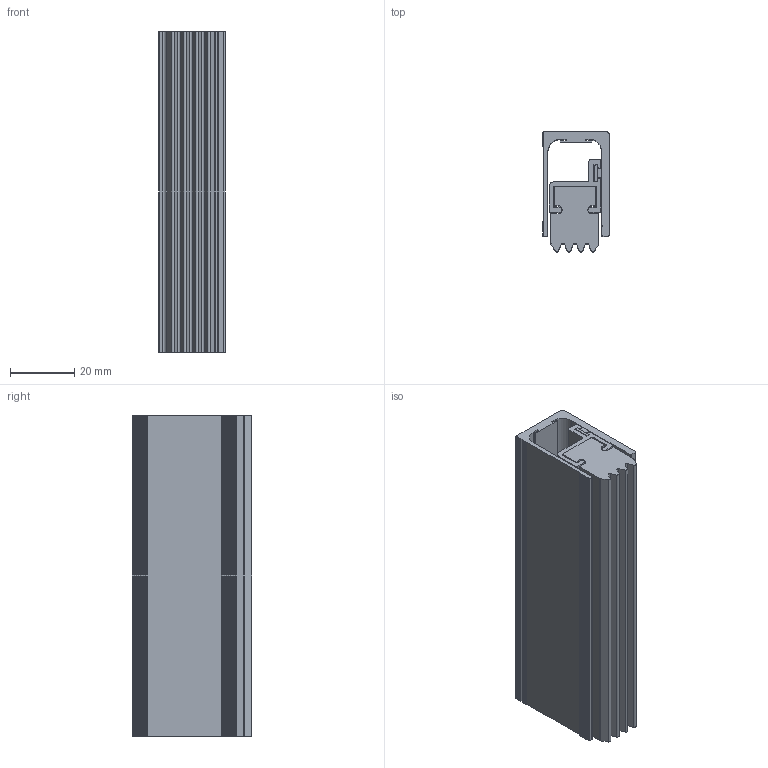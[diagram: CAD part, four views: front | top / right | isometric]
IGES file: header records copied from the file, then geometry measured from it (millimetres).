
Global section: file name: No Iges File Name specified; native system: Autodesk Inventor 2012; preprocessor: AutoDesk Inventor Iges Exporter R2012; author: anna.b; date: 20131218.103207; units: millimetre
Bounding box: 20.62 x 37.34 x 100 mm (x, y, z)
Volume: 50110.9 mm3; surface area: 38568.9 mm2
Topology: 5 solids, 5 shells, 150 faces, 420 edges, 280 vertices
Faces by surface type: plane 100, cylinder 37, revolution 13
